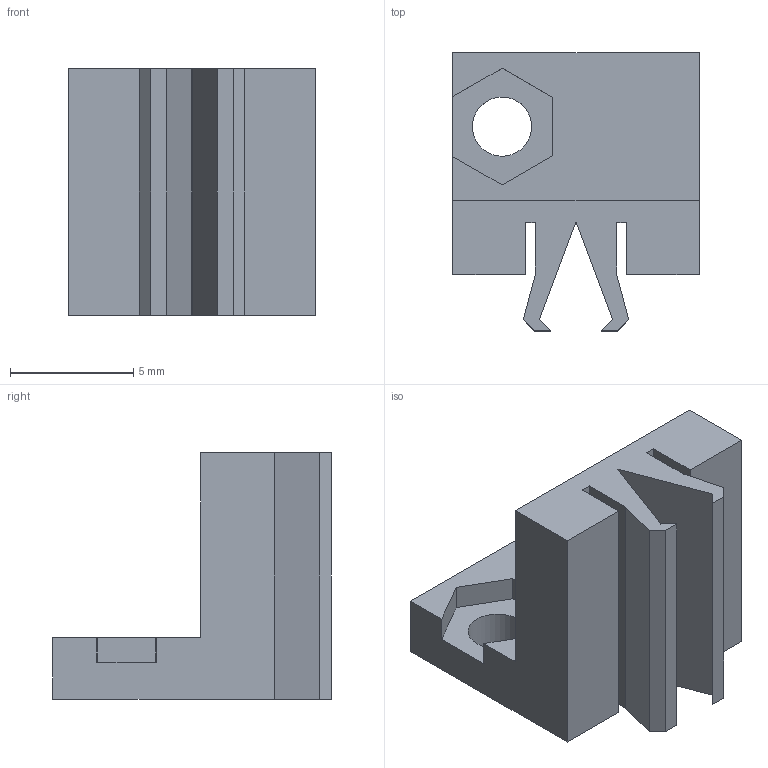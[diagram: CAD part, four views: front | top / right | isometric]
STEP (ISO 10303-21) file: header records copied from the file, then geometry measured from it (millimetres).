
FILE_DESCRIPTION(/* description */ (''),/* implementation_level */ '2;1');
FILE_NAME(/* name */ 'C:/Users/priba/Downloads/Brick1x1l2.step',/* time_stamp */ '2020-06-09T21:50:22+02:00',/* author */ (''),/* organization */ (''),/* preprocessor_version */ 'ST-DEVELOPER v18.1',/* originating_system */ 'Autodesk Translation Framework v9.3.0.1241',/* authorisation */ '');
FILE_SCHEMA (('AUTOMOTIVE_DESIGN { 1 0 10303 214 3 1 1 }'));
Length unit declared in the file: millimetre
Products named in the file (1): Brick1x1l2
Bounding box: 10 x 11.31 x 10 mm (x, y, z)
Volume: 428.7 mm3; surface area: 694.4 mm2
Topology: 1 solids, 1 shells, 33 faces, 93 edges, 62 vertices
Faces by surface type: plane 32, cylinder 1
Full cylindrical faces by diameter (mm): 2.4 x1
Entity records: 1075 total; most frequent: CARTESIAN_POINT 189, ORIENTED_EDGE 186, DIRECTION 163, EDGE_CURVE 93, LINE 91, VECTOR 91, VERTEX_POINT 62, AXIS2_PLACEMENT_3D 36
